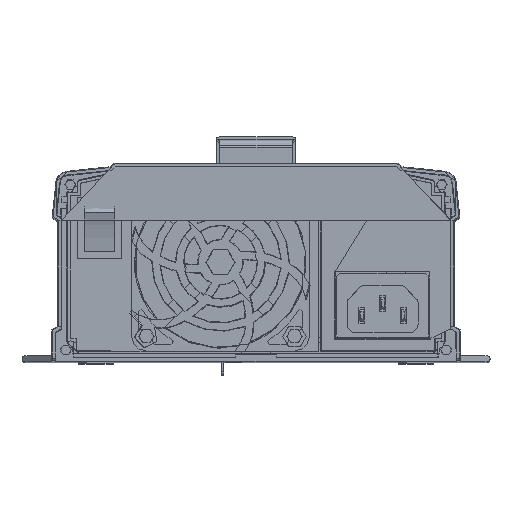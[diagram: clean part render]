
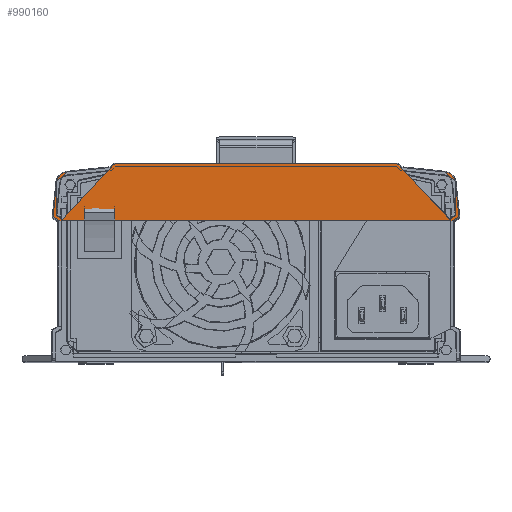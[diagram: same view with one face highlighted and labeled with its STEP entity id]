
A CAD part, top view. The second image highlights one B-rep face of the part: STEP entity #990160.
In plain terms, the highlighted planar face has unit normal (0, 0, 1).
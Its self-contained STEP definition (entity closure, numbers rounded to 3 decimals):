
#981540=CARTESIAN_POINT('',(67.48,-70.607,
22.425));
#981550=VERTEX_POINT('',#981540);
#981860=CARTESIAN_POINT('',(-66.738,-68.85,
22.425));
#981870=VERTEX_POINT('',#981860);
#981900=CARTESIAN_POINT('',(-66.738,-54.726,
22.425));
#981910=DIRECTION('',(0.,1.,0.));
#981920=VECTOR('',#981910,1.);
#981930=LINE('',#981900,#981920);
#981940=CARTESIAN_POINT('',(-66.738,-69.001,
22.425));
#981950=VERTEX_POINT('',#981940);
#981960=EDGE_CURVE('',#981950,#981870,#981930,.T.);
#982190=CARTESIAN_POINT('',(-10.503,-36.534,
22.425));
#982200=DIRECTION('',(0.866,0.5,0.));
#982210=VECTOR('',#982200,1.);
#982220=LINE('',#982190,#982210);
#982230=CARTESIAN_POINT('',(-68.546,-70.045,
22.425));
#982240=VERTEX_POINT('',#982230);
#982250=EDGE_CURVE('',#982240,#981950,#982220,.T.);
#982470=CARTESIAN_POINT('',(-65.737,-69.251,
22.425));
#982480=VERTEX_POINT('',#982470);
#982530=CARTESIAN_POINT('',(-65.737,-68.85,
22.425));
#982540=DIRECTION('',(0.,1.,0.));
#982550=VECTOR('',#982540,1.);
#982560=LINE('',#982530,#982550);
#982570=CARTESIAN_POINT('',(-65.737,-68.85,
22.425));
#982580=VERTEX_POINT('',#982570);
#982590=EDGE_CURVE('',#982480,#982580,#982560,.T.);
#983040=CARTESIAN_POINT('',(68.546,-70.045,
22.425));
#983050=VERTEX_POINT('',#983040);
#983080=CARTESIAN_POINT('',(10.503,-36.534,
22.425));
#983090=DIRECTION('',(0.866,-0.5,0.));
#983100=VECTOR('',#983090,1.);
#983110=LINE('',#983080,#983100);
#983120=CARTESIAN_POINT('',(66.738,-69.001,
22.425));
#983130=VERTEX_POINT('',#983120);
#983140=EDGE_CURVE('',#983130,#983050,#983110,.T.);
#983300=CARTESIAN_POINT('',(66.738,-68.85,
22.425));
#983310=DIRECTION('',(0.,1.,0.));
#983320=VECTOR('',#983310,1.);
#983330=LINE('',#983300,#983320);
#983340=CARTESIAN_POINT('',(66.738,-68.85,
22.425));
#983350=VERTEX_POINT('',#983340);
#983360=EDGE_CURVE('',#983130,#983350,#983330,.T.);
#984620=CARTESIAN_POINT('',(65.737,-68.85,
22.425));
#984630=VERTEX_POINT('',#984620);
#984660=CARTESIAN_POINT('',(65.737,-54.22,
22.425));
#984670=DIRECTION('',(0.,1.,0.));
#984680=VECTOR('',#984670,1.);
#984690=LINE('',#984660,#984680);
#984700=CARTESIAN_POINT('',(65.737,-69.251,
22.425));
#984710=VERTEX_POINT('',#984700);
#984720=EDGE_CURVE('',#984710,#984630,#984690,.T.);
#985000=CARTESIAN_POINT('',(66.021,-69.743,
22.425));
#985010=VERTEX_POINT('',#985000);
#985060=CARTESIAN_POINT('',(9.784,-37.274,
22.425));
#985070=DIRECTION('',(-0.866,0.5,0.));
#985080=VECTOR('',#985070,1.);
#985090=LINE('',#985060,#985080);
#985100=EDGE_CURVE('',#981550,#985010,#985090,.T.);
#987980=CARTESIAN_POINT('',(-67.465,-70.576,
22.425));
#987990=VERTEX_POINT('',#987980);
#988300=CARTESIAN_POINT('',(-9.784,-37.274,
22.425));
#988310=DIRECTION('',(-0.866,-0.5,0.));
#988320=VECTOR('',#988310,1.);
#988330=LINE('',#988300,#988320);
#988340=CARTESIAN_POINT('',(-66.021,-69.743,
22.425));
#988350=VERTEX_POINT('',#988340);
#988360=EDGE_CURVE('',#988350,#987990,#988330,.T.);
#988550=CARTESIAN_POINT('',(-69.,-68.85,
22.425));
#988560=DIRECTION('',(0.,0.,-1.));
#988570=DIRECTION('',(0.,1.,0.));
#988580=AXIS2_PLACEMENT_3D('',#988550,#988560,#988570);
#988590=PLANE('',#988580);
#988880=ORIENTED_EDGE('',*,*,#985100,.F.);
#988890=CARTESIAN_POINT('',(66.307,-69.25,
22.425));
#988900=DIRECTION('',(0.,0.,1.));
#988910=DIRECTION('',(0.866,0.5,0.));
#988920=AXIS2_PLACEMENT_3D('',#988890,#988900,#988910);
#988930=ELLIPSE('',#988920,0.57,0.569);
#988940=EDGE_CURVE('',#984710,#985010,#988930,.T.);
#988950=ORIENTED_EDGE('',*,*,#988940,.T.);
#988960=ORIENTED_EDGE('',*,*,#984720,.F.);
#988970=CARTESIAN_POINT('',(-2095.876,-68.85,
22.425));
#988980=DIRECTION('',(-1.,0.,0.));
#988990=VECTOR('',#988980,1.);
#989000=LINE('',#988970,#988990);
#989010=EDGE_CURVE('',#983350,#984630,#989000,.T.);
#989020=ORIENTED_EDGE('',*,*,#989010,.T.);
#989030=ORIENTED_EDGE('',*,*,#983360,.T.);
#989040=ORIENTED_EDGE('',*,*,#983140,.F.);
#989050=CARTESIAN_POINT('',(69.389,-62.019,
22.425));
#989060=DIRECTION('',(-0.105,-0.995,0.));
#989070=VECTOR('',#989060,1.);
#989080=LINE('',#989050,#989070);
#989090=CARTESIAN_POINT('',(67.3,-81.899,
22.425));
#989100=VERTEX_POINT('',#989090);
#989110=EDGE_CURVE('',#983050,#989100,#989080,.T.);
#989120=ORIENTED_EDGE('',*,*,#989110,.F.);
#989130=CARTESIAN_POINT('',(63.582,-81.509,
22.425));
#989140=DIRECTION('',(0.,0.,-1.));
#989150=DIRECTION('',(-1.,0.,0.));
#989160=AXIS2_PLACEMENT_3D('',#989130,#989140,#989150);
#989170=CIRCLE('',#989160,3.738);
#989180=CARTESIAN_POINT('',(63.973,-85.226,
22.425));
#989190=VERTEX_POINT('',#989180);
#989200=EDGE_CURVE('',#989100,#989190,#989170,.T.);
#989210=ORIENTED_EDGE('',*,*,#989200,.F.);
#989220=CARTESIAN_POINT('',(3.87,-91.543,
22.425));
#989230=DIRECTION('',(-0.995,-0.105,0.));
#989240=VECTOR('',#989230,1.);
#989250=LINE('',#989220,#989240);
#989260=CARTESIAN_POINT('',(49.801,-86.716,
22.425));
#989270=VERTEX_POINT('',#989260);
#989280=EDGE_CURVE('',#989190,#989270,#989250,.T.);
#989290=ORIENTED_EDGE('',*,*,#989280,.F.);
#989300=CARTESIAN_POINT('',(50.037,-88.965,
22.425));
#989310=DIRECTION('',(0.,0.,1.));
#989320=DIRECTION('',(-1.,0.,0.));
#989330=AXIS2_PLACEMENT_3D('',#989300,#989310,#989320);
#989340=CIRCLE('',#989330,2.262);
#989350=CARTESIAN_POINT('',(48.194,-87.654,
22.425));
#989360=VERTEX_POINT('',#989350);
#989370=EDGE_CURVE('',#989270,#989360,#989340,.T.);
#989380=ORIENTED_EDGE('',*,*,#989370,.F.);
#989390=CARTESIAN_POINT('',(47.593,-87.226,
22.425));
#989400=DIRECTION('',(0.,0.,-1.));
#989410=DIRECTION('',(-1.,0.,0.));
#989420=AXIS2_PLACEMENT_3D('',#989390,#989400,#989410);
#989430=CIRCLE('',#989420,0.738);
#989440=CARTESIAN_POINT('',(47.593,-87.964,
22.425));
#989450=VERTEX_POINT('',#989440);
#989460=EDGE_CURVE('',#989360,#989450,#989430,.T.);
#989470=ORIENTED_EDGE('',*,*,#989460,.F.);
#989480=CARTESIAN_POINT('',(0.,-87.964,
22.425));
#989490=DIRECTION('',(-1.,0.,0.));
#989500=VECTOR('',#989490,1.);
#989510=LINE('',#989480,#989500);
#989520=CARTESIAN_POINT('',(-47.577,-87.964,
22.425));
#989530=VERTEX_POINT('',#989520);
#989540=EDGE_CURVE('',#989450,#989530,#989510,.T.);
#989550=ORIENTED_EDGE('',*,*,#989540,.F.);
#989560=CARTESIAN_POINT('',(-47.577,-87.226,
22.425));
#989570=DIRECTION('',(0.,0.,-1.));
#989580=DIRECTION('',(-1.,0.,0.));
#989590=AXIS2_PLACEMENT_3D('',#989560,#989570,#989580);
#989600=CIRCLE('',#989590,0.738);
#989610=CARTESIAN_POINT('',(-48.178,-87.655,
22.425));
#989620=VERTEX_POINT('',#989610);
#989630=EDGE_CURVE('',#989530,#989620,#989600,.T.);
#989640=ORIENTED_EDGE('',*,*,#989630,.F.);
#989650=CARTESIAN_POINT('',(-50.02,-88.968,
22.425));
#989660=DIRECTION('',(0.,0.,1.));
#989670=DIRECTION('',(-1.,0.,0.));
#989680=AXIS2_PLACEMENT_3D('',#989650,#989660,#989670);
#989690=CIRCLE('',#989680,2.262);
#989700=CARTESIAN_POINT('',(-49.784,-86.718,
22.425));
#989710=VERTEX_POINT('',#989700);
#989720=EDGE_CURVE('',#989620,#989710,#989690,.T.);
#989730=ORIENTED_EDGE('',*,*,#989720,.F.);
#989740=CARTESIAN_POINT('',(-70.648,-84.525,
22.425));
#989750=DIRECTION('',(-0.995,0.105,0.));
#989760=VECTOR('',#989750,1.);
#989770=LINE('',#989740,#989760);
#989780=CARTESIAN_POINT('',(-63.973,-85.226,
22.425));
#989790=VERTEX_POINT('',#989780);
#989800=EDGE_CURVE('',#989710,#989790,#989770,.T.);
#989810=ORIENTED_EDGE('',*,*,#989800,.F.);
#989820=CARTESIAN_POINT('',(-63.582,-81.509,
22.425));
#989830=DIRECTION('',(0.,0.,-1.));
#989840=DIRECTION('',(-1.,0.,0.));
#989850=AXIS2_PLACEMENT_3D('',#989820,#989830,#989840);
#989860=CIRCLE('',#989850,3.738);
#989870=CARTESIAN_POINT('',(-67.3,-81.899,
22.425));
#989880=VERTEX_POINT('',#989870);
#989890=EDGE_CURVE('',#989790,#989880,#989860,.T.);
#989900=ORIENTED_EDGE('',*,*,#989890,.F.);
#989910=CARTESIAN_POINT('',(-69.389,-62.019,
22.425));
#989920=DIRECTION('',(-0.105,0.995,0.));
#989930=VECTOR('',#989920,1.);
#989940=LINE('',#989910,#989930);
#989950=EDGE_CURVE('',#989880,#982240,#989940,.T.);
#989960=ORIENTED_EDGE('',*,*,#989950,.F.);
#989970=ORIENTED_EDGE('',*,*,#982250,.F.);
#989980=ORIENTED_EDGE('',*,*,#981960,.F.);
#989990=CARTESIAN_POINT('',(-2095.876,-68.85,
22.425));
#990000=DIRECTION('',(-1.,0.,0.));
#990010=VECTOR('',#990000,1.);
#990020=LINE('',#989990,#990010);
#990030=EDGE_CURVE('',#982580,#981870,#990020,.T.);
#990040=ORIENTED_EDGE('',*,*,#990030,.T.);
#990050=ORIENTED_EDGE('',*,*,#982590,.T.);
#990060=CARTESIAN_POINT('',(-66.307,-69.25,
22.425));
#990070=DIRECTION('',(0.,0.,1.));
#990080=DIRECTION('',(0.866,-0.5,0.));
#990090=AXIS2_PLACEMENT_3D('',#990060,#990070,#990080);
#990100=ELLIPSE('',#990090,0.57,0.569);
#990110=EDGE_CURVE('',#988350,#982480,#990100,.T.);
#990120=ORIENTED_EDGE('',*,*,#990110,.T.);
#990130=ORIENTED_EDGE('',*,*,#988360,.F.);
#990140=EDGE_LOOP('',(#990130,#990120,#990050,#990040,#989980,#989970,
#989960,#989900,#989810,#989730,#989640,#989550,#989470,#989380,#989290,
#989210,#989120,#989040,#989030,#989020,#988960,#988950,#988880));
#990150=FACE_OUTER_BOUND('',#990140,.T.);
#990160=ADVANCED_FACE('',(#990150),#988590,.F.);
